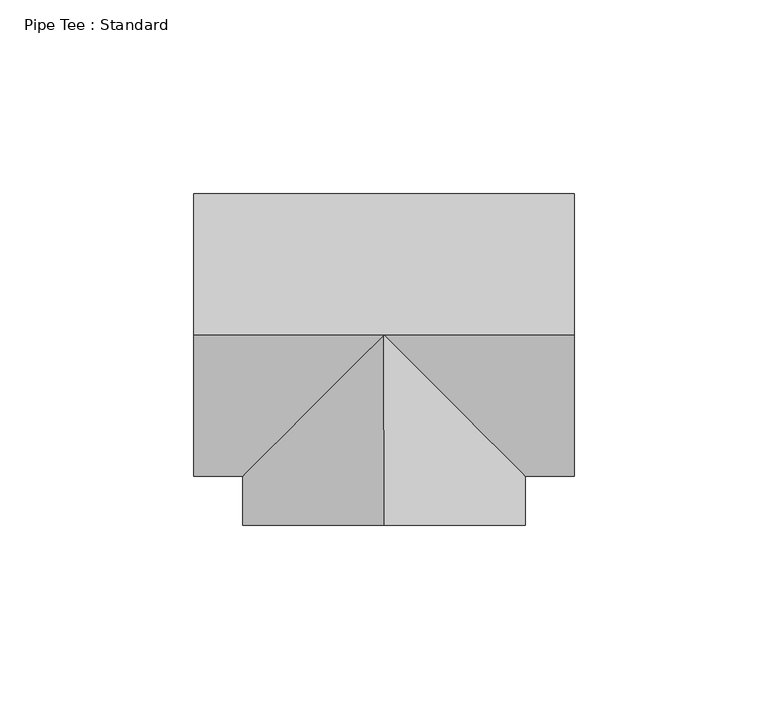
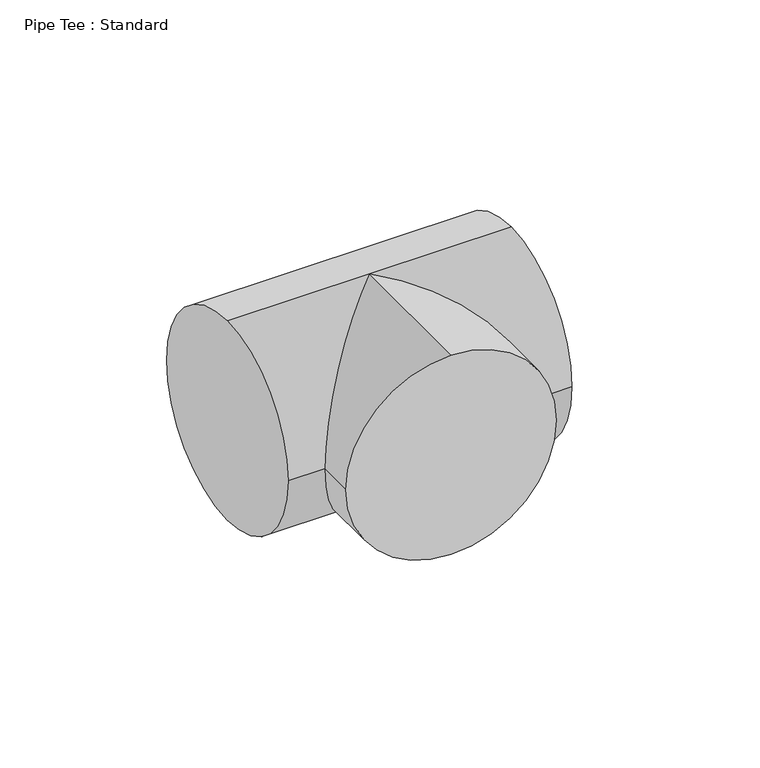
"""IFC4 building model written with IfcOpenShell, lengths in millimetres: pipe fitting geometry, Pipe Tee : Standard."""

from ifc_helpers import new_model, si_unit, frame, origin, place, context, project, spatial, circle_curve, ellipse_curve, source, transform, mapped, element, save
from ifc_brep_helpers import plane_surface, cylinder_surface, advanced_brep


def pipe_tee_standard_794628ef(model_context):
    return source(origin(), model_context, "Body", "AdvancedBrep", [
        advanced_brep(
        [(-49.2125, 0.0, 36.5125), (-49.2125, 36.5125, 0.0), (-49.2125, 0.0, -36.5125), (-49.2125, -36.5125, 0.0), (49.2125, 0.0, 36.5125), (49.2125, -36.5125, 0.0), (49.2125, 0.0, -36.5125), (49.2125, 36.5125, 0.0), (0.0, 0.0, 36.5125), (0.0, 0.0, -36.5125), (-36.5125, -36.5125, 0.0), (36.5125, -36.5125, 0.0), (0.0, -49.2125, 36.5125), (-36.5125, -49.2125, 0.0), (0.0, -49.2125, -36.5125), (36.5125, -49.2125, 0.0)],
        [
            (0, 1, circle_curve(frame((-49.2125, 0.0, 0.0), z_axis=(-1.0, 0.0, 0.0), x_axis=(0.0, 1.0, 0.0)), 36.5125)),
            (1, 2, circle_curve(frame((-49.2125, 0.0, 0.0), z_axis=(-1.0, 0.0, 0.0), x_axis=(0.0, 1.0, 0.0)), 36.5125)),
            (2, 3, circle_curve(frame((-49.2125, 0.0, 0.0), z_axis=(-1.0, 0.0, 0.0), x_axis=(0.0, 1.0, 0.0)), 36.5125)),
            (3, 0, circle_curve(frame((-49.2125, 0.0, 0.0), z_axis=(-1.0, 0.0, 0.0), x_axis=(0.0, 1.0, 0.0)), 36.5125)),
            (4, 5, circle_curve(frame((49.2125, 0.0, 0.0), z_axis=(1.0, 0.0, 0.0), x_axis=(0.0, 1.0, 0.0)), 36.5125)),
            (5, 6, circle_curve(frame((49.2125, 0.0, 0.0), z_axis=(1.0, 0.0, 0.0), x_axis=(0.0, 1.0, 0.0)), 36.5125)),
            (6, 7, circle_curve(frame((49.2125, 0.0, 0.0), z_axis=(1.0, 0.0, 0.0), x_axis=(0.0, 1.0, 0.0)), 36.5125)),
            (7, 4, circle_curve(frame((49.2125, 0.0, 0.0), z_axis=(1.0, 0.0, 0.0), x_axis=(0.0, 1.0, 0.0)), 36.5125)),
            (0, 8),
            (8, 4),
            (7, 1),
            (6, 9),
            (9, 2),
            (9, 10, ellipse_curve(frame((0.0, 0.0, 0.0), z_axis=(-0.707106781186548, 0.7071067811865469, 0.0), x_axis=(-0.7071067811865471, -0.7071067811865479, 0.0)), 51.6364727, 36.5125)),
            (10, 3),
            (5, 11),
            (11, 9, ellipse_curve(frame((0.0, 0.0, 0.0), z_axis=(0.7071067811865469, 0.7071067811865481, 0.0), x_axis=(-0.7071067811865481, 0.7071067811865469, 0.0)), 51.6364727, 36.5125)),
            (10, 8, ellipse_curve(frame((0.0, 0.0, 0.0), z_axis=(-0.707106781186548, 0.7071067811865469, 0.0), x_axis=(-0.7071067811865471, -0.7071067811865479, 0.0)), 51.6364727, 36.5125)),
            (8, 11, ellipse_curve(frame((0.0, 0.0, 0.0), z_axis=(0.7071067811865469, 0.7071067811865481, 0.0), x_axis=(-0.7071067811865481, 0.7071067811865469, 0.0)), 51.6364727, 36.5125)),
            (12, 13, circle_curve(frame((0.0, -49.2125, 0.0), z_axis=(0.0, -1.0, 0.0), x_axis=(1.0, 0.0, 0.0)), 36.5125)),
            (13, 14, circle_curve(frame((0.0, -49.2125, 0.0), z_axis=(0.0, -1.0, 0.0), x_axis=(1.0, 0.0, 0.0)), 36.5125)),
            (14, 15, circle_curve(frame((0.0, -49.2125, 0.0), z_axis=(0.0, -1.0, 0.0), x_axis=(1.0, 0.0, 0.0)), 36.5125)),
            (15, 12, circle_curve(frame((0.0, -49.2125, 0.0), z_axis=(0.0, -1.0, 0.0), x_axis=(1.0, 0.0, 0.0)), 36.5125)),
            (15, 11),
            (8, 12),
            (14, 9),
            (13, 10),
        ],
        [
            plane_surface(frame((-49.2125, 0.0, 0.0), z_axis=(-1.0, 0.0, 0.0), x_axis=(0.0, 0.0, 1.0))),
            plane_surface(frame((49.2125, 0.0, 0.0), z_axis=(1.0, 0.0, 0.0), x_axis=(0.0, 0.0, 1.0))),
            cylinder_surface(frame((-49.2125, 0.0, 0.0), z_axis=(-1.0, 0.0, 0.0), x_axis=(0.0, 1.0, 0.0)), 36.5125),
            plane_surface(frame((0.0, -49.2125, 0.0), z_axis=(0.0, -1.0, 0.0), x_axis=(0.0, 0.0, 1.0))),
            cylinder_surface(frame((0.0, 0.0, 0.0), z_axis=(0.0, 1.0, 0.0), x_axis=(1.0, 0.0, 0.0)), 36.5125),
        ],
        [
            (0, [[1, 2, 3, 4]]),
            (1, [[5, 6, 7, 8]]),
            (2, [[-1, 9, 10, -8, 11]]),
            (2, [[-2, -11, -7, 12, 13]]),
            (2, [[-3, -13, 14, 15]]),
            (2, [[-6, 16, 17, -12]]),
            (2, [[-4, -15, 18, -9]]),
            (2, [[-5, -10, 19, -16]]),
            (3, [[20, 21, 22, 23]]),
            (4, [[-23, 24, -19, 25]]),
            (4, [[-22, 26, -17, -24]]),
            (4, [[-21, 27, -14, -26]]),
            (4, [[-20, -25, -18, -27]]),
        ],
    ),
        advanced_brep(
        [(-49.2125, 0.0, 36.5125), (-49.2125, 36.5125, 0.0), (-49.2125, 0.0, -36.5125), (-49.2125, -36.5125, 0.0), (49.2125, 0.0, 36.5125), (49.2125, -36.5125, 0.0), (49.2125, 0.0, -36.5125), (49.2125, 36.5125, 0.0), (0.0, 0.0, 36.5125), (0.0, 0.0, -36.5125), (-36.5125, -36.5125, 0.0), (36.5125, -36.5125, 0.0), (0.0, -49.2125, 36.5125), (-36.5125, -49.2125, 0.0), (0.0, -49.2125, -36.5125), (36.5125, -49.2125, 0.0)],
        [
            (0, 1, circle_curve(frame((-49.2125, 0.0, 0.0), z_axis=(-1.0, 0.0, 0.0), x_axis=(0.0, 1.0, 0.0)), 36.5125)),
            (1, 2, circle_curve(frame((-49.2125, 0.0, 0.0), z_axis=(-1.0, 0.0, 0.0), x_axis=(0.0, 1.0, 0.0)), 36.5125)),
            (2, 3, circle_curve(frame((-49.2125, 0.0, 0.0), z_axis=(-1.0, 0.0, 0.0), x_axis=(0.0, 1.0, 0.0)), 36.5125)),
            (3, 0, circle_curve(frame((-49.2125, 0.0, 0.0), z_axis=(-1.0, 0.0, 0.0), x_axis=(0.0, 1.0, 0.0)), 36.5125)),
            (4, 5, circle_curve(frame((49.2125, 0.0, 0.0), z_axis=(1.0, 0.0, 0.0), x_axis=(0.0, 1.0, 0.0)), 36.5125)),
            (5, 6, circle_curve(frame((49.2125, 0.0, 0.0), z_axis=(1.0, 0.0, 0.0), x_axis=(0.0, 1.0, 0.0)), 36.5125)),
            (6, 7, circle_curve(frame((49.2125, 0.0, 0.0), z_axis=(1.0, 0.0, 0.0), x_axis=(0.0, 1.0, 0.0)), 36.5125)),
            (7, 4, circle_curve(frame((49.2125, 0.0, 0.0), z_axis=(1.0, 0.0, 0.0), x_axis=(0.0, 1.0, 0.0)), 36.5125)),
            (0, 8),
            (8, 4),
            (7, 1),
            (6, 9),
            (9, 2),
            (9, 10, ellipse_curve(frame((0.0, 0.0, 0.0), z_axis=(-0.707106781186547, 0.7071067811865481, 0.0), x_axis=(-0.707106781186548, -0.707106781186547, 0.0)), 51.6364727, 36.5125)),
            (10, 3),
            (5, 11),
            (11, 9, ellipse_curve(frame((0.0, 0.0, 0.0), z_axis=(0.707106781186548, 0.7071067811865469, 0.0), x_axis=(-0.707106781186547, 0.707106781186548, 0.0)), 51.6364727, 36.5125)),
            (10, 8, ellipse_curve(frame((0.0, 0.0, 0.0), z_axis=(-0.707106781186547, 0.7071067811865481, 0.0), x_axis=(-0.707106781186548, -0.707106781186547, 0.0)), 51.6364727, 36.5125)),
            (8, 11, ellipse_curve(frame((0.0, 0.0, 0.0), z_axis=(0.707106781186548, 0.7071067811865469, 0.0), x_axis=(-0.707106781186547, 0.707106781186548, 0.0)), 51.6364727, 36.5125)),
            (12, 13, circle_curve(frame((0.0, -49.2125, 0.0), z_axis=(0.0, -1.0, 0.0), x_axis=(1.0, 0.0, 0.0)), 36.5125)),
            (13, 14, circle_curve(frame((0.0, -49.2125, 0.0), z_axis=(0.0, -1.0, 0.0), x_axis=(1.0, 0.0, 0.0)), 36.5125)),
            (14, 15, circle_curve(frame((0.0, -49.2125, 0.0), z_axis=(0.0, -1.0, 0.0), x_axis=(1.0, 0.0, 0.0)), 36.5125)),
            (15, 12, circle_curve(frame((0.0, -49.2125, 0.0), z_axis=(0.0, -1.0, 0.0), x_axis=(1.0, 0.0, 0.0)), 36.5125)),
            (15, 11),
            (8, 12),
            (14, 9),
            (13, 10),
        ],
        [
            plane_surface(frame((-49.2125, 0.0, 0.0), z_axis=(-1.0, 0.0, 0.0), x_axis=(0.0, 0.0, 1.0))),
            plane_surface(frame((49.2125, 0.0, 0.0), z_axis=(1.0, 0.0, 0.0), x_axis=(0.0, 0.0, 1.0))),
            cylinder_surface(frame((-49.2125, 0.0, 0.0), z_axis=(-1.0, 0.0, 0.0), x_axis=(0.0, 1.0, 0.0)), 36.5125),
            plane_surface(frame((0.0, -49.2125, 0.0), z_axis=(0.0, -1.0, 0.0), x_axis=(0.0, 0.0, 1.0))),
            cylinder_surface(frame((0.0, 0.0, 0.0), z_axis=(0.0, 1.0, 0.0), x_axis=(1.0, 0.0, 0.0)), 36.5125),
        ],
        [
            (0, [[1, 2, 3, 4]]),
            (1, [[5, 6, 7, 8]]),
            (2, [[-1, 9, 10, -8, 11]]),
            (2, [[-2, -11, -7, 12, 13]]),
            (2, [[-3, -13, 14, 15]]),
            (2, [[-6, 16, 17, -12]]),
            (2, [[-4, -15, 18, -9]]),
            (2, [[-5, -10, 19, -16]]),
            (3, [[20, 21, 22, 23]]),
            (4, [[-23, 24, -19, 25]]),
            (4, [[-22, 26, -17, -24]]),
            (4, [[-21, 27, -14, -26]]),
            (4, [[-20, -25, -18, -27]]),
        ],
    ),
    ])


if __name__ == "__main__":
    model = new_model("IFC4")
    model_context = context("Model", 3, world=origin())
    ifc_project = project(units=[si_unit("LENGTHUNIT", "METRE", prefix="MILLI")], contexts=[model_context])
    site = spatial("IfcSite", under=ifc_project)
    building = spatial("IfcBuilding", under=site)
    placement = place(None, origin())
    pipe_tee_standard_shape = pipe_tee_standard_794628ef(model_context)
    element("IfcPipeFitting", 1, ObjectType="Pipe Tee : Standard", at=placement, inside=building, context=model_context, shape_type="MappedRepresentation", body=[
        mapped(pipe_tee_standard_shape, transform((0.0, 0.0, 0.0), x_axis=(1.0, 0.0, 0.0), y_axis=(0.0, 1.0, 0.0), z_axis=(0.0, 0.0, 1.0))),
    ])
    save(model, "model.ifc")
